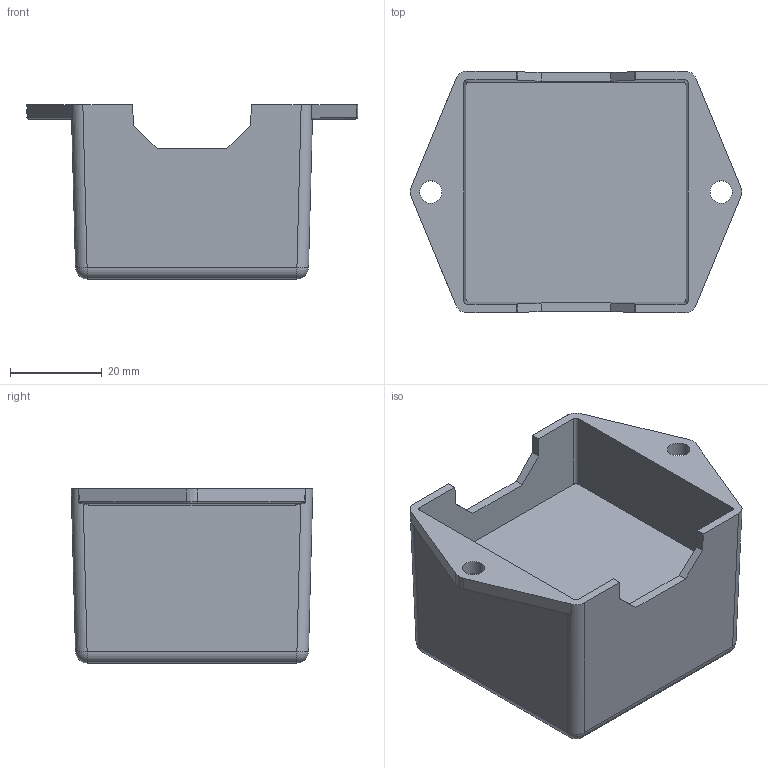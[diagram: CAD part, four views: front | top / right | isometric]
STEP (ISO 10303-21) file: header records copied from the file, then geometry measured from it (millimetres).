
FILE_DESCRIPTION(/* description */ ('Unknown'),/* implementation_level */ '2;1');
FILE_NAME(/* name */ 'SUNGUARD_SG-4_NO WIRES',/* time_stamp */ '2024-07-02T15:18:44-04:00',/* author */ ('Unknown'),/* organization */ ('Unknown'),/* preprocessor_version */ 'ST-DEVELOPER v16.7',/* originating_system */ 'Solid Edge',/* authorisation */ 'Unknown');
FILE_SCHEMA (('AUTOMOTIVE_DESIGN {1 0 10303 214 3 1 1}'));
Length unit declared in the file: millimetre
Products named in the file (1): SG4 Cover Recreate
Bounding box: 72.37 x 52.8 x 38.1 mm (x, y, z)
Volume: 61999.3 mm3; surface area: 16283.7 mm2
Topology: 1 solids, 1 shells, 68 faces, 174 edges, 104 vertices
Faces by surface type: plane 32, cylinder 21, bspline 8, sphere 4, torus 2, cone 1
Full cylindrical faces by diameter (mm): 4.889 x2
Entity records: 2578 total; most frequent: CARTESIAN_POINT 465, DIRECTION 340, ORIENTED_EDGE 336, EDGE_CURVE 168, AXIS2_PLACEMENT_3D 123, VERTEX_POINT 104, LINE 94, VECTOR 94
